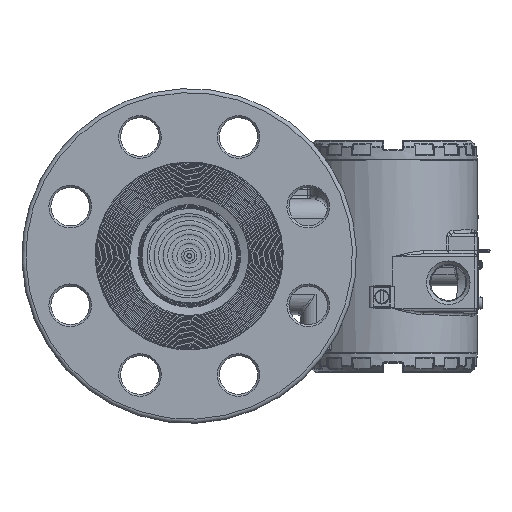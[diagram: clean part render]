
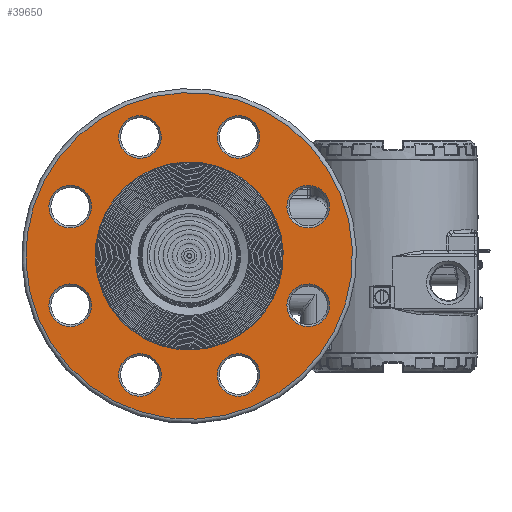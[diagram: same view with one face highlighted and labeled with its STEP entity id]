
A CAD part, top view. The second image highlights one B-rep face of the part: STEP entity #39650.
In plain terms, the highlighted planar face has unit normal (0, 0, 1).
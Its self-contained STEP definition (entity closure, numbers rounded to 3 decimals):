
#774=FACE_BOUND('',#6745,.T.);
#775=FACE_BOUND('',#6746,.T.);
#776=FACE_BOUND('',#6747,.T.);
#777=FACE_BOUND('',#6748,.T.);
#778=FACE_BOUND('',#6749,.T.);
#779=FACE_BOUND('',#6750,.T.);
#780=FACE_BOUND('',#6751,.T.);
#781=FACE_BOUND('',#6752,.T.);
#782=FACE_BOUND('',#6753,.T.);
#2811=PLANE('',#44063);
#4035=FACE_OUTER_BOUND('',#6744,.T.);
#6744=EDGE_LOOP('',(#30248));
#6745=EDGE_LOOP('',(#30249,#30250));
#6746=EDGE_LOOP('',(#30251));
#6747=EDGE_LOOP('',(#30252));
#6748=EDGE_LOOP('',(#30253));
#6749=EDGE_LOOP('',(#30254));
#6750=EDGE_LOOP('',(#30255));
#6751=EDGE_LOOP('',(#30256));
#6752=EDGE_LOOP('',(#30257));
#6753=EDGE_LOOP('',(#30258));
#12699=CIRCLE('',#44060,80.5);
#12701=CIRCLE('',#44064,46.35);
#12702=CIRCLE('',#44065,46.35);
#12703=CIRCLE('',#44066,10.5);
#12704=CIRCLE('',#44067,10.5);
#12705=CIRCLE('',#44068,10.5);
#12706=CIRCLE('',#44069,10.5);
#12707=CIRCLE('',#44070,10.5);
#12708=CIRCLE('',#44071,10.5);
#12709=CIRCLE('',#44072,10.5);
#12710=CIRCLE('',#44073,10.5);
#17317=VERTEX_POINT('',#70637);
#17319=VERTEX_POINT('',#70645);
#17320=VERTEX_POINT('',#70646);
#17321=VERTEX_POINT('',#70649);
#17322=VERTEX_POINT('',#70651);
#17323=VERTEX_POINT('',#70653);
#17324=VERTEX_POINT('',#70655);
#17325=VERTEX_POINT('',#70657);
#17326=VERTEX_POINT('',#70659);
#17327=VERTEX_POINT('',#70661);
#17328=VERTEX_POINT('',#70663);
#21884=EDGE_CURVE('',#17317,#17317,#12699,.T.);
#21887=EDGE_CURVE('',#17319,#17320,#12701,.T.);
#21888=EDGE_CURVE('',#17320,#17319,#12702,.T.);
#21889=EDGE_CURVE('',#17321,#17321,#12703,.T.);
#21890=EDGE_CURVE('',#17322,#17322,#12704,.T.);
#21891=EDGE_CURVE('',#17323,#17323,#12705,.T.);
#21892=EDGE_CURVE('',#17324,#17324,#12706,.T.);
#21893=EDGE_CURVE('',#17325,#17325,#12707,.T.);
#21894=EDGE_CURVE('',#17326,#17326,#12708,.T.);
#21895=EDGE_CURVE('',#17327,#17327,#12709,.T.);
#21896=EDGE_CURVE('',#17328,#17328,#12710,.T.);
#30248=ORIENTED_EDGE('',*,*,#21884,.F.);
#30249=ORIENTED_EDGE('',*,*,#21887,.F.);
#30250=ORIENTED_EDGE('',*,*,#21888,.F.);
#30251=ORIENTED_EDGE('',*,*,#21889,.F.);
#30252=ORIENTED_EDGE('',*,*,#21890,.F.);
#30253=ORIENTED_EDGE('',*,*,#21891,.F.);
#30254=ORIENTED_EDGE('',*,*,#21892,.F.);
#30255=ORIENTED_EDGE('',*,*,#21893,.F.);
#30256=ORIENTED_EDGE('',*,*,#21894,.F.);
#30257=ORIENTED_EDGE('',*,*,#21895,.F.);
#30258=ORIENTED_EDGE('',*,*,#21896,.F.);
#39650=ADVANCED_FACE('',(#4035,#774,#775,#776,#777,#778,#779,#780,#781,
#782),#2811,.T.);
#44060=AXIS2_PLACEMENT_3D('',#70639,#52178,#52179);
#44063=AXIS2_PLACEMENT_3D('',#70644,#52185,#52186);
#44064=AXIS2_PLACEMENT_3D('',#70647,#52187,#52188);
#44065=AXIS2_PLACEMENT_3D('',#70648,#52189,#52190);
#44066=AXIS2_PLACEMENT_3D('',#70650,#52191,#52192);
#44067=AXIS2_PLACEMENT_3D('',#70652,#52193,#52194);
#44068=AXIS2_PLACEMENT_3D('',#70654,#52195,#52196);
#44069=AXIS2_PLACEMENT_3D('',#70656,#52197,#52198);
#44070=AXIS2_PLACEMENT_3D('',#70658,#52199,#52200);
#44071=AXIS2_PLACEMENT_3D('',#70660,#52201,#52202);
#44072=AXIS2_PLACEMENT_3D('',#70662,#52203,#52204);
#44073=AXIS2_PLACEMENT_3D('',#70664,#52205,#52206);
#52178=DIRECTION('center_axis',(0.,0.,-1.));
#52179=DIRECTION('ref_axis',(-1.,0.,0.));
#52185=DIRECTION('center_axis',(0.,0.,1.));
#52186=DIRECTION('ref_axis',(1.,0.,0.));
#52187=DIRECTION('center_axis',(0.,0.,1.));
#52188=DIRECTION('ref_axis',(-1.,0.,0.));
#52189=DIRECTION('center_axis',(0.,0.,1.));
#52190=DIRECTION('ref_axis',(-1.,0.,0.));
#52191=DIRECTION('center_axis',(0.,0.,1.));
#52192=DIRECTION('ref_axis',(0.,1.,0.));
#52193=DIRECTION('center_axis',(0.,0.,1.));
#52194=DIRECTION('ref_axis',(1.,0.,0.));
#52195=DIRECTION('center_axis',(0.,0.,1.));
#52196=DIRECTION('ref_axis',(-1.,0.,0.));
#52197=DIRECTION('center_axis',(0.,0.,1.));
#52198=DIRECTION('ref_axis',(0.707,-0.707,0.));
#52199=DIRECTION('center_axis',(0.,0.,1.));
#52200=DIRECTION('ref_axis',(0.,-1.,0.));
#52201=DIRECTION('center_axis',(0.,0.,1.));
#52202=DIRECTION('ref_axis',(-0.707,-0.707,0.));
#52203=DIRECTION('center_axis',(0.,0.,1.));
#52204=DIRECTION('ref_axis',(0.707,0.707,0.));
#52205=DIRECTION('center_axis',(0.,0.,1.));
#52206=DIRECTION('ref_axis',(-0.707,0.707,0.));
#70637=CARTESIAN_POINT('',(80.5,0.,20.7));
#70639=CARTESIAN_POINT('Origin',(0.,0.,20.7));
#70644=CARTESIAN_POINT('Origin',(0.,0.,
20.7));
#70645=CARTESIAN_POINT('',(46.35,0.,20.7));
#70646=CARTESIAN_POINT('',(-46.35,0.,20.7));
#70647=CARTESIAN_POINT('Origin',(0.,0.,20.7));
#70648=CARTESIAN_POINT('Origin',(0.,0.,20.7));
#70649=CARTESIAN_POINT('',(63.5,-10.5,20.7));
#70650=CARTESIAN_POINT('Origin',(63.5,0.,20.7));
#70651=CARTESIAN_POINT('',(-10.5,-63.5,20.7));
#70652=CARTESIAN_POINT('Origin',(0.,-63.5,20.7));
#70653=CARTESIAN_POINT('',(10.5,63.5,20.7));
#70654=CARTESIAN_POINT('Origin',(0.,63.5,20.7));
#70655=CARTESIAN_POINT('',(-52.326,-37.477,20.7));
#70656=CARTESIAN_POINT('Origin',(-44.901,-44.901,20.7));
#70657=CARTESIAN_POINT('',(-63.5,10.5,20.7));
#70658=CARTESIAN_POINT('Origin',(-63.5,0.,20.7));
#70659=CARTESIAN_POINT('',(-37.477,52.326,20.7));
#70660=CARTESIAN_POINT('Origin',(-44.901,44.901,20.7));
#70661=CARTESIAN_POINT('',(37.477,-52.326,20.7));
#70662=CARTESIAN_POINT('Origin',(44.901,-44.901,20.7));
#70663=CARTESIAN_POINT('',(52.326,37.477,20.7));
#70664=CARTESIAN_POINT('Origin',(44.901,44.901,20.7));
